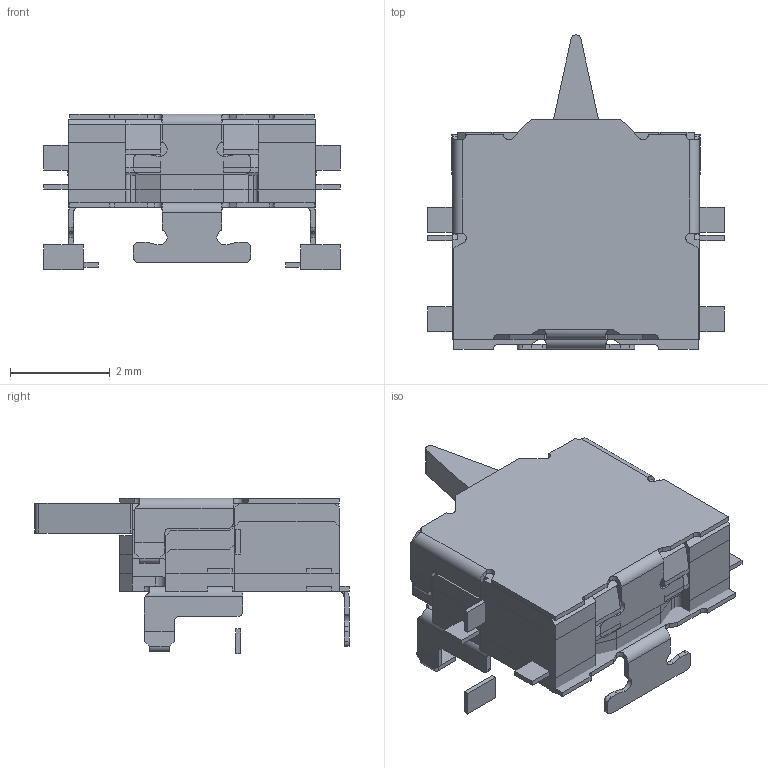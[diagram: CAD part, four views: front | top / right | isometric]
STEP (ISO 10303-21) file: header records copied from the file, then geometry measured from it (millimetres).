
FILE_DESCRIPTION( ( 'Unknown' ), '1' );
FILE_NAME( '//Ntcw022/edgesv/fsw/ユーザ提出用データ/ﾃﾞｨﾃｸﾀｰｽｲｯﾁ/ESE23/ese23f001-std-sk.stp', 'Unknown', ( 'Unknown' ), ( 'Unknown' ), 'PSStep 10.0', 'Unknown', ' ' );
FILE_SCHEMA( ( 'AUTOMOTIVE_DESIGN { 1 0 10303 214 1 1 1 1 }' ) );
Length unit declared in the file: millimetre
Products named in the file (8): Assem1; sw-3d-131-e23cs1-pc-roo; sw-3d-131-e23ts1-f-sk; sw-3d-e23lv4-sk; sw-3d-131-e23fm2-sk
Bounding box: 5.95 x 6.29 x 3.12 mm (x, y, z)
Volume: 61.5 mm3; surface area: 268.4 mm2
Topology: 14 solids, 14 shells, 454 faces, 1244 edges, 820 vertices
Faces by surface type: plane 348, cylinder 104, cone 2
Full cylindrical faces by diameter (mm): 0.4 x2, 0.425 x2
Entity records: 8970 total; most frequent: CARTESIAN_POINT 1411, ORIENTED_EDGE 1238, DIRECTION 1163, EDGE_CURVE 619, LINE 495, VECTOR 495, VERTEX_POINT 410, AXIS2_PLACEMENT_3D 334
